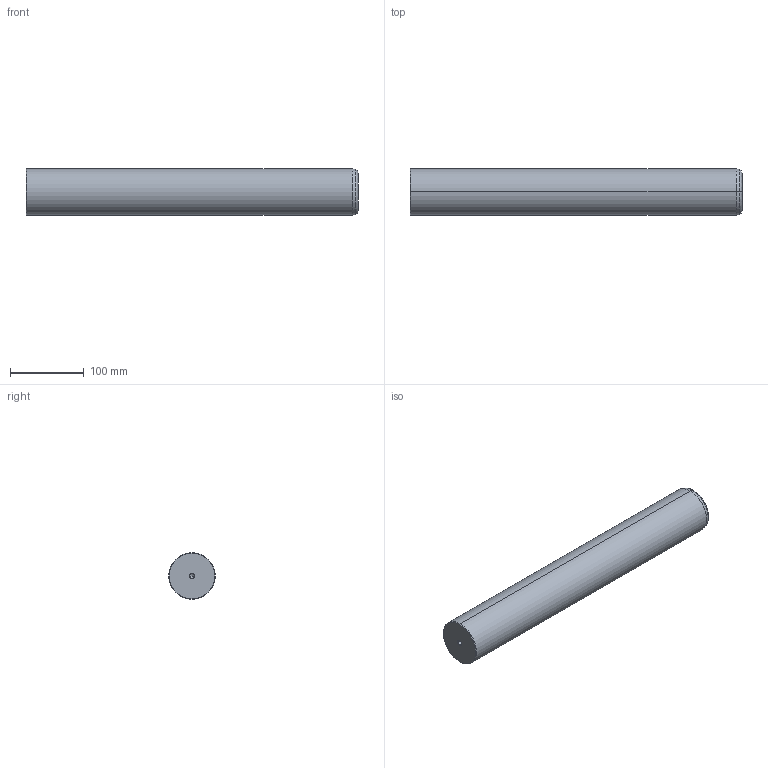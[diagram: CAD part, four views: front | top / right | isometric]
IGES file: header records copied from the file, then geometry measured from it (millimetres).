
Start section: START RECORD GO HERE.
Global section: file name: 720-63x450.igs; native system: DASSAULT SYSTEMES CATIA V5 R20 - www.3ds.com; preprocessor: CATIA Version 5 Release 20 ; author: Utente; organization: NB04-ASUS; date: 20201230.222606; units: millimetre
Bounding box: 450 x 63 x 63 mm (x, y, z)
Surface area: 95586.7 mm2 (no closed solid volume)
Topology: 0 solids, 0 shells, 22 faces, 120 edges, 116 vertices
Faces by surface type: revolution 20, plane 2
